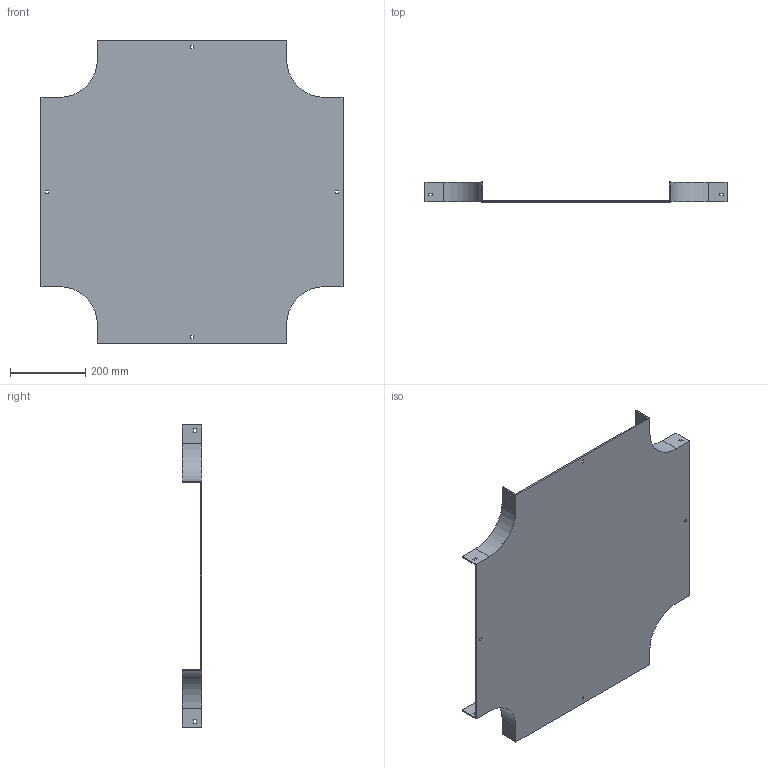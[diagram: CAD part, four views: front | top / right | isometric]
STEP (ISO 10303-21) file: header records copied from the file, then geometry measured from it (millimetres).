
FILE_DESCRIPTION (( 'STEP AP214' ), '1' );
FILE_NAME ('17B1B500.step', '2025-02-21T09:57:23', ( '' ), ( '' ), 'SwSTEP 2.0', 'SolidWorks 2023', '' );
FILE_SCHEMA (( 'AUTOMOTIVE_DESIGN' ));
Length unit declared in the file: millimetre
Products named in the file (1): 17B1B500
Bounding box: 804 x 52 x 804 mm (x, y, z)
Volume: 2151144.8 mm3; surface area: 1242624.7 mm2
Topology: 1 solids, 1 shells, 82 faces, 240 edges, 160 vertices
Faces by surface type: plane 74, cylinder 8
Entity records: 2751 total; most frequent: CARTESIAN_POINT 483, ORIENTED_EDGE 480, DIRECTION 422, EDGE_CURVE 240, LINE 224, VECTOR 224, VERTEX_POINT 160, EDGE_LOOP 106
